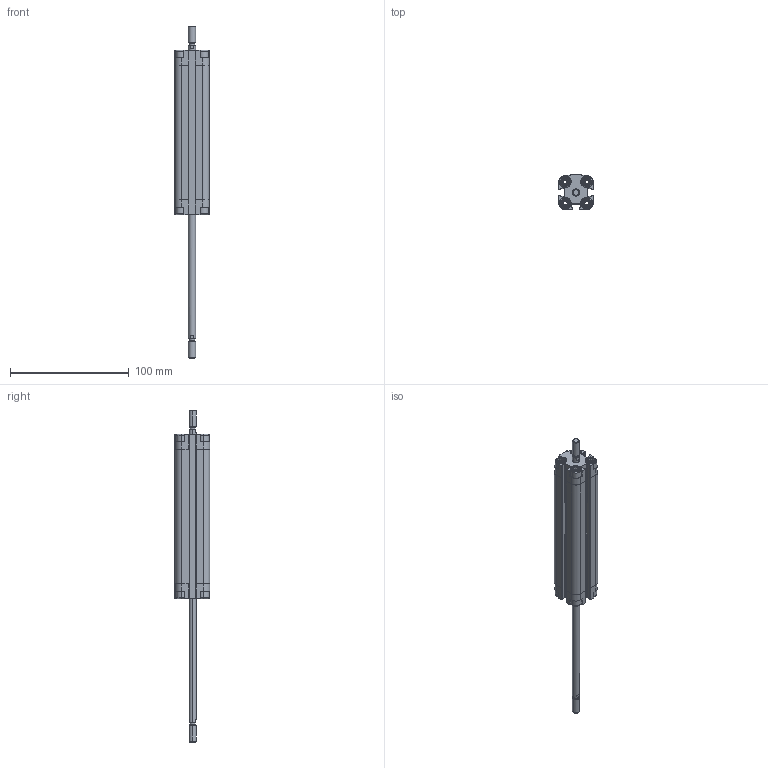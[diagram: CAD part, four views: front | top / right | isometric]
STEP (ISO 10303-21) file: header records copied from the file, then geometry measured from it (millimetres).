
FILE_DESCRIPTION (( 'STEP AP203' ), '1' );
FILE_NAME ('CDVU12-100M-P.STEP', '2020-07-21T14:57:30', ( '' ), ( '' ), 'SwSTEP 2.0', 'SolidWorks 2019', '' );
FILE_SCHEMA (( 'CONFIG_CONTROL_DESIGN' ));
Length unit declared in the file: millimetre
Products named in the file (1): CDVU12-100M-P
Bounding box: 29 x 30 x 279 mm (x, y, z)
Volume: 81177.5 mm3; surface area: 42983.8 mm2
Topology: 2 solids, 2 shells, 566 faces, 1504 edges, 978 vertices
Faces by surface type: plane 338, cylinder 164, cone 48, torus 16
Entity records: 17771 total; most frequent: CARTESIAN_POINT 3621, ORIENTED_EDGE 3000, DIRECTION 2850, EDGE_CURVE 1500, VERTEX_POINT 978, AXIS2_PLACEMENT_3D 975, VECTOR 900, LINE 900
